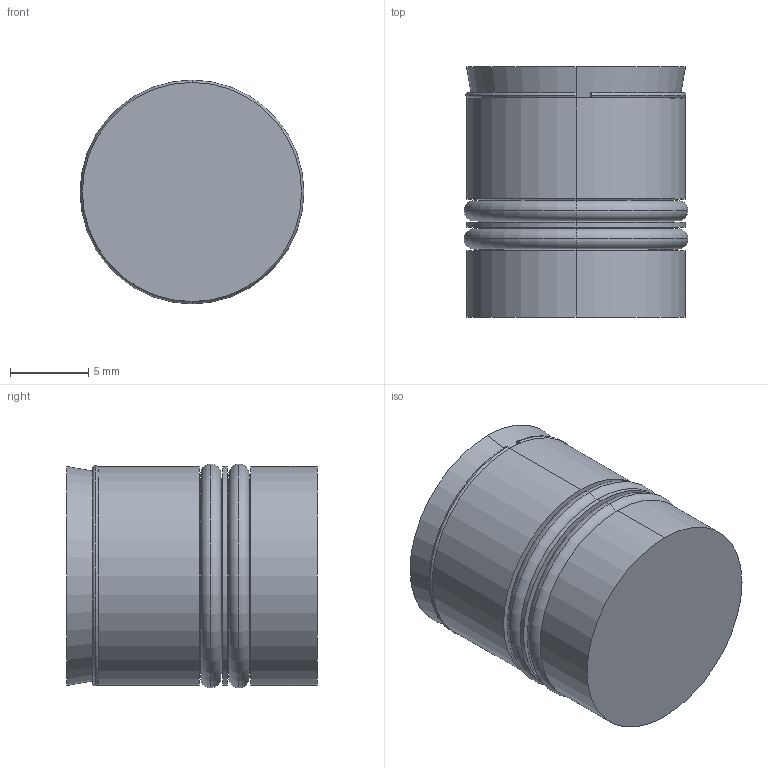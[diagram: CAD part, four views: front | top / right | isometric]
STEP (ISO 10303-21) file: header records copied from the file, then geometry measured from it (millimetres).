
FILE_DESCRIPTION (( 'STEP AP203' ), '1' );
FILE_NAME ('TCR2_14.STEP', '2023-04-24T12:08:34', ( '' ), ( '' ), 'SwSTEP 2.0', 'SolidWorks 2022', '' );
FILE_SCHEMA (( 'CONFIG_CONTROL_DESIGN' ));
Length unit declared in the file: millimetre
Products named in the file (1): TCR2_14
Bounding box: 14.3 x 16 x 14.3 mm (x, y, z)
Volume: 2428.3 mm3; surface area: 1536.9 mm2
Topology: 4 solids, 4 shells, 35 faces, 66 edges, 40 vertices
Faces by surface type: torus 18, plane 9, cylinder 6, cone 2
Entity records: 981 total; most frequent: DIRECTION 196, CARTESIAN_POINT 142, ORIENTED_EDGE 132, AXIS2_PLACEMENT_3D 94, EDGE_CURVE 66, CIRCLE 58, VERTEX_POINT 40, EDGE_LOOP 40
